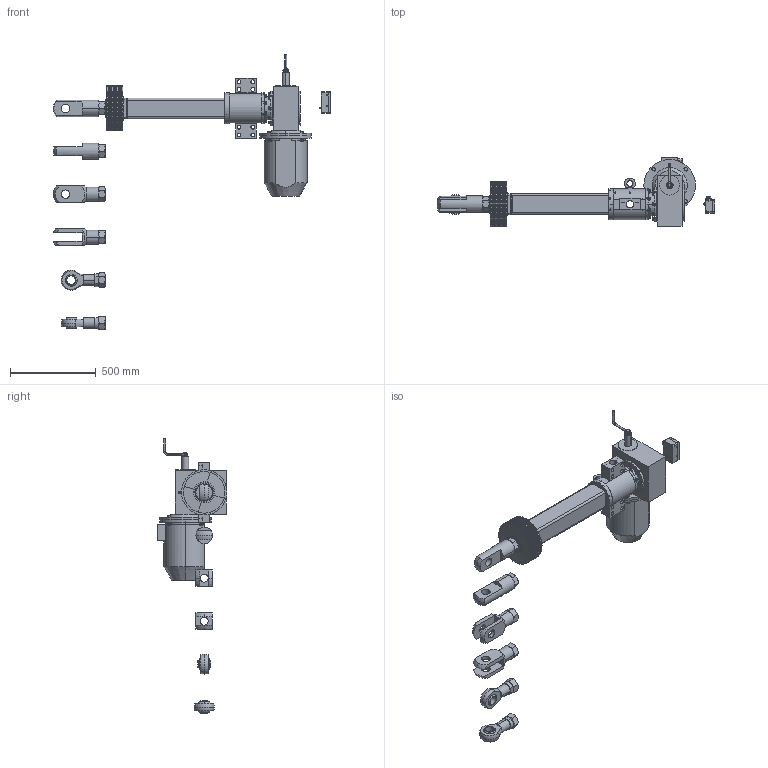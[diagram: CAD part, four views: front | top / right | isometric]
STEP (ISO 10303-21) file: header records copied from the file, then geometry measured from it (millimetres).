
FILE_DESCRIPTION (( 'STEP AP203' ), '1' );
FILE_NAME ('Ì4 10 400.STEP', '2016-12-21T09:04:48', ( '' ), ( '' ), 'SwSTEP 2.0', 'SolidWorks 2012', '' );
FILE_SCHEMA (( 'CONFIG_CONTROL_DESIGN' ));
Products named in the file (9): ﾌ4 10 400; 迕10; 苂10; 迍 10; ﾁﾑﾏ; Ãîôð Ñ4_•®¤600; ﾒ矜 10_憤､400; ﾑ4 10 1; ﾌ4 10 矜鈞
Assembly tree (10 placements, depth 2):
  ﾌ4 10 400
    ﾌ4 10 矜鈞
    ﾑ4 10 1
    ﾒ矜 10_憤､400
    Ãîôð Ñ4_•®¤600
    ﾁﾑﾏ
    迍 10
    苂10  x2
    迕10  x2
Bounding box: 1616 x 405.76 x 1601 mm (x, y, z)
Volume: 1532198.9 mm3; surface area: 6165944.6 mm2
Topology: 1 solids, 211 shells, 1906 faces, 5216 edges, 3541 vertices
Faces by surface type: plane 759, cylinder 599, cone 414, torus 62, sphere 60, bspline 12
Entity records: 62601 total; most frequent: CARTESIAN_POINT 15144, DIRECTION 10383, ORIENTED_EDGE 8387, EDGE_CURVE 4956, AXIS2_PLACEMENT_3D 4163, VERTEX_POINT 3384, CIRCLE 2328, EDGE_LOOP 2180
